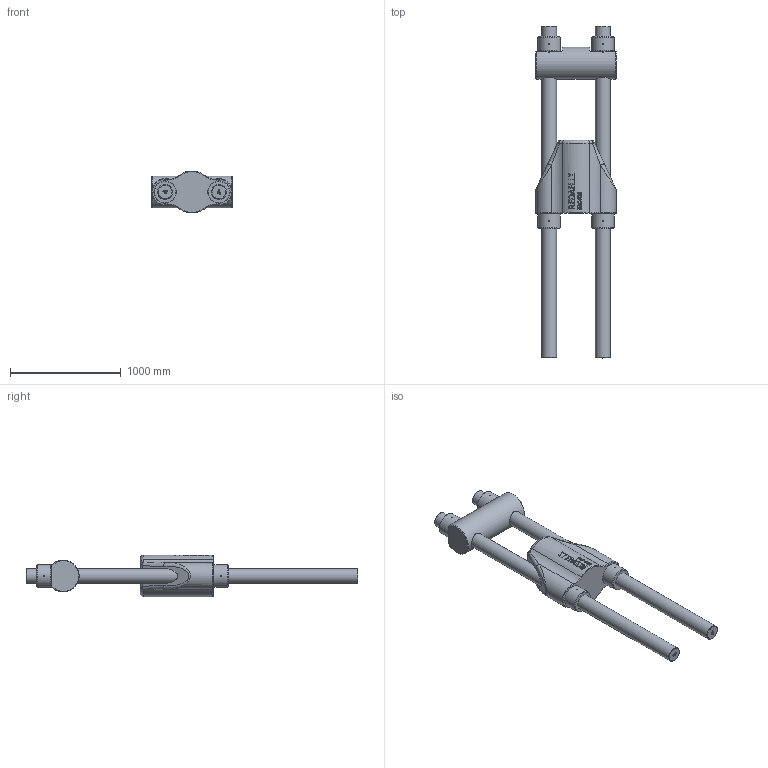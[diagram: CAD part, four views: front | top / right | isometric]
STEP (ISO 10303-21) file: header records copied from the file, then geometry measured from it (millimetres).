
FILE_DESCRIPTION(/* description */ (''),/* implementation_level */ '2;1');
FILE_NAME(/* name */ 'D:\Clienti\Redaelli (inventor)\BRC\STEP\Arrangemet\BRC120 72 111 0.stp',/* time_stamp */ '2021-05-08T08:43:16+02:00',/* author */ ('fabri'),/* organization */ (''),/* preprocessor_version */ 'ST-DEVELOPER v16.13',/* originating_system */ 'Autodesk Inventor 2018',/* authorisation */ '');
FILE_SCHEMA (('AUTOMOTIVE_DESIGN { 1 0 10303 214 3 1 1 }'));
Length unit declared in the file: millimetre
Products named in the file (5): BRC020 72 111 0; BRC020 71 112 0; BRC020 71 114 0_ROD; BRC020 71 113 0; BRC020 71 114 0_NUT
Assembly tree (8 placements, depth 2):
  BRC020 72 111 0
    BRC020 71 112 0
    BRC020 71 114 0_ROD  x2
    BRC020 71 113 0
    BRC020 71 114 0_NUT  x4
Bounding box: 726 x 3000 x 379.15 mm (x, y, z)
Volume: 227241092.8 mm3; surface area: 5891689.9 mm2
Topology: 8 solids, 8 shells, 1476 faces, 3974 edges, 2638 vertices
Faces by surface type: plane 742, bspline 611, cylinder 69, cone 30, torus 20, sphere 4
Full cylindrical faces by diameter (mm): 10 x16, 123.505 x4, 135 x2, 141 x4, 202.5 x4, 288 x1
Entity records: 29739 total; most frequent: CARTESIAN_POINT 11393, ORIENTED_EDGE 4322, DIRECTION 2655, EDGE_CURVE 2161, VERTEX_POINT 1440, LINE 1237, VECTOR 1237, EDGE_LOOP 921
